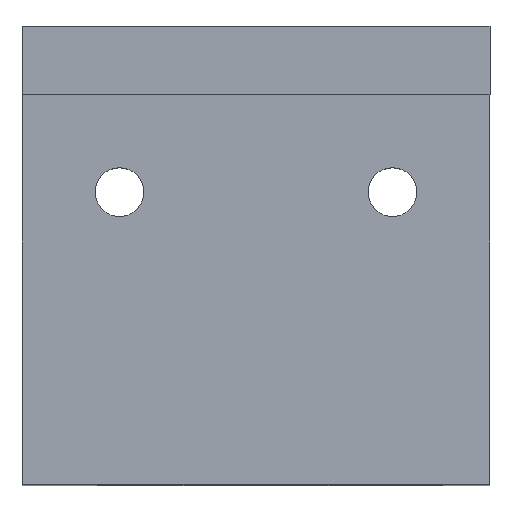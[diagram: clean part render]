
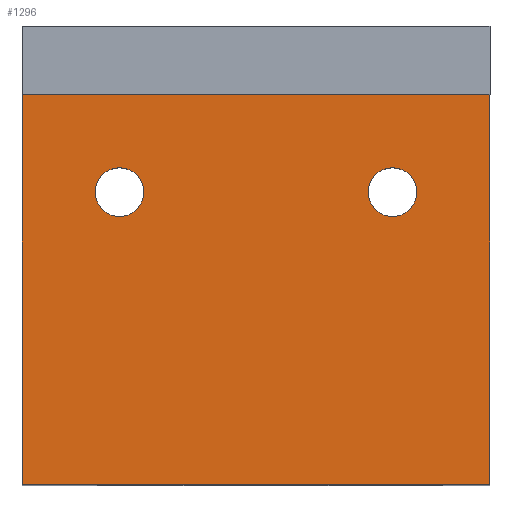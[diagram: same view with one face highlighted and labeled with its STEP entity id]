
A CAD part, top view. The second image highlights one B-rep face of the part: STEP entity #1296.
In plain terms, the highlighted planar face has unit normal (0, 0, 1).
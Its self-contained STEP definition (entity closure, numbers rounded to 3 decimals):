
#34 = ORIENTED_EDGE ( 'NONE', *, *, #1425, .T. ) ;
#36 = CARTESIAN_POINT ( 'NONE',  ( 14., 20., 20. ) ) ;
#40 = VERTEX_POINT ( 'NONE', #1243 ) ;
#58 = EDGE_LOOP ( 'NONE', ( #1421, #933 ) ) ;
#66 = AXIS2_PLACEMENT_3D ( 'NONE', #1014, #227, #1144 ) ;
#69 = CIRCLE ( 'NONE', #815, 2.5 ) ;
#112 = ORIENTED_EDGE ( 'NONE', *, *, #915, .F. ) ;
#115 = LINE ( 'NONE', #1330, #807 ) ;
#125 = EDGE_CURVE ( 'NONE', #801, #1280, #808, .T. ) ;
#167 = DIRECTION ( 'NONE',  ( 0., -1., 0. ) ) ;
#172 = DIRECTION ( 'NONE',  ( 1., 0., 0. ) ) ;
#176 = CARTESIAN_POINT ( 'NONE',  ( 14., 20., 20. ) ) ;
#198 = CARTESIAN_POINT ( 'NONE',  ( 11.5, 20., 20. ) ) ;
#208 = VERTEX_POINT ( 'NONE', #1212 ) ;
#226 = VERTEX_POINT ( 'NONE', #840 ) ;
#227 = DIRECTION ( 'NONE',  ( 0., 0., 1. ) ) ;
#270 = CARTESIAN_POINT ( 'NONE',  ( 24., 30., 20. ) ) ;
#286 = CARTESIAN_POINT ( 'NONE',  ( 0., 30., 20. ) ) ;
#290 = CARTESIAN_POINT ( 'NONE',  ( -24., 30., 20. ) ) ;
#293 = DIRECTION ( 'NONE',  ( 0., 0., 1. ) ) ;
#306 = DIRECTION ( 'NONE',  ( 1., 0., 0. ) ) ;
#323 = CARTESIAN_POINT ( 'NONE',  ( -24., 30., 20. ) ) ;
#360 = LINE ( 'NONE', #1456, #398 ) ;
#398 = VECTOR ( 'NONE', #684, 1000. ) ;
#448 = AXIS2_PLACEMENT_3D ( 'NONE', #1602, #293, #1200 ) ;
#489 = ORIENTED_EDGE ( 'NONE', *, *, #948, .T. ) ;
#551 = DIRECTION ( 'NONE',  ( 0., -1., 0. ) ) ;
#583 = LINE ( 'NONE', #735, #663 ) ;
#643 = AXIS2_PLACEMENT_3D ( 'NONE', #36, #956, #172 ) ;
#648 = EDGE_CURVE ( 'NONE', #1244, #40, #115, .T. ) ;
#663 = VECTOR ( 'NONE', #1636, 1000. ) ;
#680 = EDGE_CURVE ( 'NONE', #226, #791, #771, .T. ) ;
#684 = DIRECTION ( 'NONE',  ( -1., 0., 0. ) ) ;
#687 = DIRECTION ( 'NONE',  ( 0., 0., 1. ) ) ;
#719 = EDGE_CURVE ( 'NONE', #791, #226, #69, .T. ) ;
#722 = EDGE_LOOP ( 'NONE', ( #489, #112, #1534, #34 ) ) ;
#735 = CARTESIAN_POINT ( 'NONE',  ( 0., 30., 20. ) ) ;
#771 = CIRCLE ( 'NONE', #643, 2.5 ) ;
#791 = VERTEX_POINT ( 'NONE', #198 ) ;
#801 = VERTEX_POINT ( 'NONE', #924 ) ;
#807 = VECTOR ( 'NONE', #551, 1000. ) ;
#808 = CIRCLE ( 'NONE', #448, 2.5 ) ;
#815 = AXIS2_PLACEMENT_3D ( 'NONE', #176, #1094, #306 ) ;
#829 = FACE_OUTER_BOUND ( 'NONE', #722, .T. ) ;
#840 = CARTESIAN_POINT ( 'NONE',  ( 16.5, 20., 20. ) ) ;
#867 = ORIENTED_EDGE ( 'NONE', *, *, #125, .F. ) ;
#915 = EDGE_CURVE ( 'NONE', #40, #208, #360, .T. ) ;
#924 = CARTESIAN_POINT ( 'NONE',  ( -11.5, 20., 20. ) ) ;
#933 = ORIENTED_EDGE ( 'NONE', *, *, #719, .F. ) ;
#935 = VECTOR ( 'NONE', #167, 1000. ) ;
#948 = EDGE_CURVE ( 'NONE', #1086, #208, #1275, .T. ) ;
#949 = CIRCLE ( 'NONE', #66, 2.5 ) ;
#956 = DIRECTION ( 'NONE',  ( 0., 0., 1. ) ) ;
#1014 = CARTESIAN_POINT ( 'NONE',  ( -14., 20., 20. ) ) ;
#1086 = VERTEX_POINT ( 'NONE', #323 ) ;
#1094 = DIRECTION ( 'NONE',  ( 0., 0., 1. ) ) ;
#1144 = DIRECTION ( 'NONE',  ( 1., 0., 0. ) ) ;
#1170 = FACE_BOUND ( 'NONE', #1639, .T. ) ;
#1190 = CARTESIAN_POINT ( 'NONE',  ( -16.5, 20., 20. ) ) ;
#1200 = DIRECTION ( 'NONE',  ( 1., 0., 0. ) ) ;
#1212 = CARTESIAN_POINT ( 'NONE',  ( -24., -10., 20. ) ) ;
#1243 = CARTESIAN_POINT ( 'NONE',  ( 24., -10., 20. ) ) ;
#1244 = VERTEX_POINT ( 'NONE', #270 ) ;
#1275 = LINE ( 'NONE', #290, #935 ) ;
#1280 = VERTEX_POINT ( 'NONE', #1190 ) ;
#1296 = ADVANCED_FACE ( 'NONE', ( #1477, #1170, #829 ), #1458, .T. ) ;
#1320 = ORIENTED_EDGE ( 'NONE', *, *, #1650, .F. ) ;
#1330 = CARTESIAN_POINT ( 'NONE',  ( 24., 30., 20. ) ) ;
#1421 = ORIENTED_EDGE ( 'NONE', *, *, #680, .F. ) ;
#1425 = EDGE_CURVE ( 'NONE', #1244, #1086, #583, .T. ) ;
#1456 = CARTESIAN_POINT ( 'NONE',  ( 0., -10., 20. ) ) ;
#1458 = PLANE ( 'NONE',  #1535 ) ;
#1477 = FACE_BOUND ( 'NONE', #58, .T. ) ;
#1534 = ORIENTED_EDGE ( 'NONE', *, *, #648, .F. ) ;
#1535 = AXIS2_PLACEMENT_3D ( 'NONE', #286, #687, #1588 ) ;
#1588 = DIRECTION ( 'NONE',  ( 1., 0., 0. ) ) ;
#1602 = CARTESIAN_POINT ( 'NONE',  ( -14., 20., 20. ) ) ;
#1636 = DIRECTION ( 'NONE',  ( -1., 0., 0. ) ) ;
#1639 = EDGE_LOOP ( 'NONE', ( #867, #1320 ) ) ;
#1650 = EDGE_CURVE ( 'NONE', #1280, #801, #949, .T. ) ;
